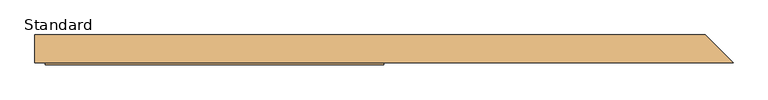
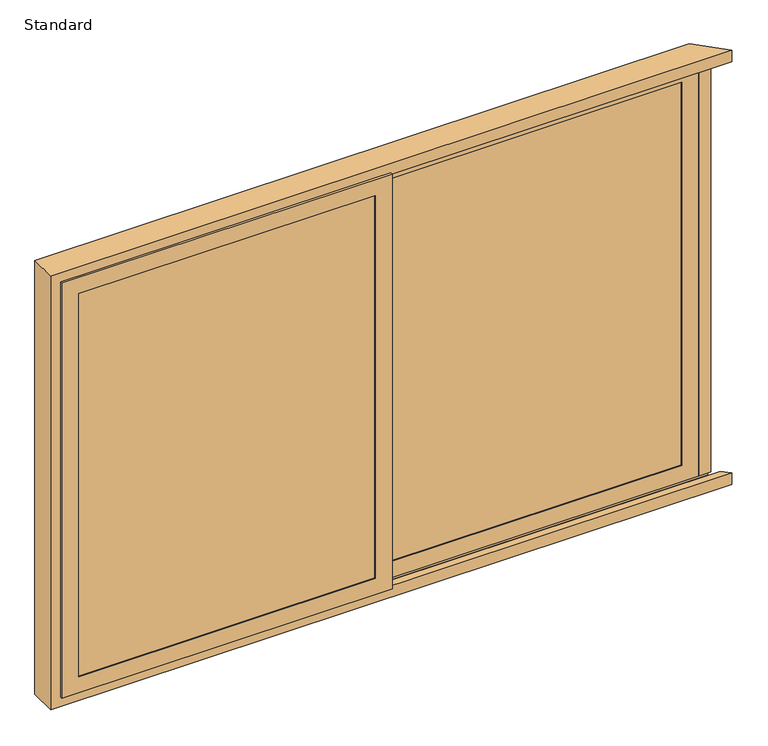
"""IFC4 building model written with IfcOpenShell, lengths in millimetres: door geometry, SMARTS_Visoglide Plus Corner Opening : Standard."""

from ifc_helpers import new_model, si_unit, frame, origin, place, context, project, spatial, polyline, outline, extrude, faceted_brep, source, transform, mapped, element, save


def standard_89412fed(model_context):
    return source(origin(), model_context, "Body", "SolidModel", [
        extrude(outline(polyline([(1347.5, 67.0), (1347.5, 63.0), (26.5, 63.0), (26.5, 67.0), (1347.5, 67.0)])), frame((0.0, 0.0, 952.5), z_axis=(0.0, 0.0, 1.0), x_axis=(1.0, 0.0, 0.0)), (0.0, 0.0, 1.0), 1795.0),
        extrude(outline(polyline([(1347.5, 47.0), (1347.5, 43.0), (26.5, 43.0), (26.5, 47.0), (1347.5, 47.0)])), frame((0.0, 0.0, 952.5), z_axis=(0.0, 0.0, 1.0), x_axis=(1.0, 0.0, 0.0)), (0.0, 0.0, 1.0), 1795.0),
        extrude(outline(polyline([(2747.5, 1347.5), (2747.5, 26.5), (952.5, 26.5), (952.5, 1347.5), (2747.5, 1347.5)]), holes=[polyline([(2737.5, 36.5), (2737.5, 1337.5), (962.5, 1337.5), (962.5, 36.5), (2737.5, 36.5)])]), frame((0.0, 47.0, 0.0), z_axis=(0.0, 1.0, 0.0), x_axis=(0.0, 0.0, 1.0)), (0.0, 0.0, 1.0), 16.0),
        extrude(outline(polyline([(947.5, 1352.5), (2752.5, 1352.5), (2752.5, 21.5), (947.5, 21.5), (947.5, 1352.5)]), holes=[polyline([(2732.5, 1332.5), (967.5, 1332.5), (967.5, 41.5), (2732.5, 41.5), (2732.5, 1332.5)])]), frame((0.0, 74.0102223, 0.0), z_axis=(0.0, 1.0, 0.0), x_axis=(0.0, 0.0, 1.0)), (0.0, 0.0, 1.0), 11.9897777),
        extrude(outline(polyline([(893.5, 1406.5), (2806.5, 1406.5), (2806.5, -32.5), (893.5, -32.5), (893.5, 1406.5)]), holes=[polyline([(2752.5, 1352.5), (947.5, 1352.5), (947.5, 21.5), (2752.5, 21.5), (2752.5, 1352.5)])]), frame((0.0, 62.0, 0.0), z_axis=(0.0, 1.0, 0.0), x_axis=(0.0, 0.0, 1.0)), (0.0, 0.0, 1.0), 24.0),
        faceted_brep([(1332.5, 39.0, 2732.5), (1332.5, 39.0, 967.5), (1332.5, 35.0, 967.5), (1332.5, 35.0, 2732.5), (1355.5, 62.0, 2755.5), (1355.5, 62.0, 944.5), (1355.5, 39.0, 944.5), (1355.5, 39.0, 2755.5), (1406.5, 35.0, 2806.5), (1406.5, 35.0, 893.5), (1406.5, 62.0, 893.5), (1406.5, 62.0, 2806.5), (41.5, 39.0, 967.5), (41.5, 35.0, 967.5), (18.5, 62.0, 944.5), (18.5, 39.0, 944.5), (-32.5, 35.0, 893.5), (-32.5, 62.0, 893.5), (41.5, 39.0, 2732.5), (41.5, 35.0, 2732.5), (18.5, 62.0, 2755.5), (18.5, 39.0, 2755.5), (-32.5, 35.0, 2806.5), (-32.5, 62.0, 2806.5)], [[[0, 1, 2, 3]], [[4, 5, 6, 7]], [[8, 9, 10, 11]], [[1, 12, 13, 2]], [[5, 14, 15, 6]], [[9, 16, 17, 10]], [[12, 18, 19, 13]], [[14, 20, 21, 15]], [[16, 22, 23, 17]], [[9, 8, 22, 16], [3, 2, 13, 19]], [[18, 0, 3, 19]], [[7, 6, 15, 21], [1, 0, 18, 12]], [[20, 4, 7, 21]], [[11, 10, 17, 23], [5, 4, 20, 14]], [[22, 8, 11, 23]]]),
        extrude(outline(polyline([(-26.5, 0.0), (-26.5, -4.0), (-1347.5, -4.0), (-1347.5, 0.0), (-26.5, 0.0)])), frame((0.0, 0.0, 952.5), z_axis=(0.0, 0.0, 1.0), x_axis=(1.0, 0.0, 0.0)), (0.0, 0.0, 1.0), 1795.0),
        extrude(outline(polyline([(-26.5, -20.0), (-26.5, -24.0), (-1347.5, -24.0), (-1347.5, -20.0), (-26.5, -20.0)])), frame((0.0, 0.0, 952.5), z_axis=(0.0, 0.0, 1.0), x_axis=(1.0, 0.0, 0.0)), (0.0, 0.0, 1.0), 1795.0),
        extrude(outline(polyline([(2747.5, -26.5), (2747.5, -1347.5), (952.5, -1347.5), (952.5, -26.5), (2747.5, -26.5)]), holes=[polyline([(2737.5, -1337.5), (2737.5, -36.5), (962.5, -36.5), (962.5, -1337.5), (2737.5, -1337.5)])]), frame((0.0, -20.0, 0.0), z_axis=(0.0, 1.0, 0.0), x_axis=(0.0, 0.0, 1.0)), (0.0, 0.0, 1.0), 16.0),
        extrude(outline(polyline([(947.5, -21.5), (2752.5, -21.5), (2752.5, -1352.5), (947.5, -1352.5), (947.5, -21.5)]), holes=[polyline([(2732.5, -41.5), (967.5, -41.5), (967.5, -1332.5), (2732.5, -1332.5), (2732.5, -41.5)])]), frame((0.0, 7.0102223, 0.0), z_axis=(0.0, 1.0, 0.0), x_axis=(0.0, 0.0, 1.0)), (0.0, 0.0, 1.0), 11.9897777),
        extrude(outline(polyline([(893.5, 32.5), (2806.5, 32.5), (2806.5, -1406.5), (893.5, -1406.5), (893.5, 32.5)]), holes=[polyline([(2752.5, -21.5), (947.5, -21.5), (947.5, -1352.5), (2752.5, -1352.5), (2752.5, -21.5)])]), frame((0.0, -5.0, 0.0), z_axis=(0.0, 1.0, 0.0), x_axis=(0.0, 0.0, 1.0)), (0.0, 0.0, 1.0), 24.0),
        faceted_brep([(-41.5, -28.0, 2732.5), (-41.5, -28.0, 967.5), (-41.5, -32.0, 967.5), (-41.5, -32.0, 2732.5), (-18.5, -5.0, 2755.5), (-18.5, -5.0, 944.5), (-18.5, -28.0, 944.5), (-18.5, -28.0, 2755.5), (32.5, -32.0, 2806.5), (32.5, -32.0, 893.5), (32.5, -5.0, 893.5), (32.5, -5.0, 2806.5), (-1332.5, -28.0, 967.5), (-1332.5, -32.0, 967.5), (-1355.5, -5.0, 944.5), (-1355.5, -28.0, 944.5), (-1406.5, -32.0, 893.5), (-1406.5, -5.0, 893.5), (-1332.5, -28.0, 2732.5), (-1332.5, -32.0, 2732.5), (-1355.5, -5.0, 2755.5), (-1355.5, -28.0, 2755.5), (-1406.5, -32.0, 2806.5), (-1406.5, -5.0, 2806.5)], [[[0, 1, 2, 3]], [[4, 5, 6, 7]], [[8, 9, 10, 11]], [[1, 12, 13, 2]], [[5, 14, 15, 6]], [[9, 16, 17, 10]], [[12, 18, 19, 13]], [[14, 20, 21, 15]], [[16, 22, 23, 17]], [[9, 8, 22, 16], [3, 2, 13, 19]], [[18, 0, 3, 19]], [[7, 6, 15, 21], [1, 0, 18, 12]], [[20, 4, 7, 21]], [[11, 10, 17, 23], [5, 4, 20, 14]], [[22, 8, 11, 23]]]),
        faceted_brep([(-1450.0, -22.7989407, 2850.0), (1517.8718161, -22.7989407, 2850.0), (1400.0728753, 95.0, 2850.0), (-1450.0, 95.0, 2850.0), (-1398.1999999, 95.0, 2798.1999999), (1400.0728753, 95.0, 2798.1999999), (1404.0728753, 91.0, 2798.1999999), (-1398.1999999, 91.0, 2798.1999999), (-1424.1999999, 91.0, 2824.1999999), (1404.0728753, 91.0, 2824.1999999), (1418.7728753, 76.3, 2824.1999999), (-1424.1999999, 76.3, 2824.1999999), (-1398.1999999, 76.3, 2798.1999999), (1418.7728753, 76.3, 2798.1999999), (1451.2886502, 43.7842251, 2798.1999999), (-1398.1999999, 43.7842251, 2798.1999999), (-1424.1999999, 43.7842251, 2824.1999999), (1451.2886502, 43.7842251, 2824.1999999), (1485.2886502, 9.7842251, 2824.1999999), (-1424.1999999, 9.7842251, 2824.1999999), (-1398.1999999, 9.7842251, 2798.1999999), (1485.2886502, 9.7842251, 2798.1999999), (1517.8718161, -22.7989407, 2798.1999999), (-1398.1999999, -22.7989407, 2798.1999999), (-1450.0, 95.0, 850.0), (-1450.0, -22.7989407, 850.0), (-1398.1999999, 91.0, 901.8000001), (-1398.1999999, 95.0, 901.8000001), (-1424.1999999, 76.3, 875.8000001), (-1424.1999999, 91.0, 875.8000001), (-1398.1999999, 43.7842251, 901.8000001), (-1398.1999999, 76.3, 901.8000001), (-1424.1999999, 9.7842251, 875.8000001), (-1424.1999999, 43.7842251, 875.8000001), (-1398.1999999, -22.7989407, 901.8000001), (-1398.1999999, 9.7842251, 901.8000001), (1400.0728753, 95.0, 850.0), (1517.8718161, -22.7989407, 850.0), (1404.0728753, 91.0, 901.8000001), (1400.0728753, 95.0, 901.8000001), (1418.7728753, 76.3, 875.8000001), (1404.0728753, 91.0, 875.8000001), (1451.2886502, 43.7842251, 901.8000001), (1418.7728753, 76.3, 901.8000001), (1485.2886502, 9.7842251, 875.8000001), (1451.2886502, 43.7842251, 875.8000001), (1517.8718161, -22.7989407, 901.8000001), (1485.2886502, 9.7842251, 901.8000001)], [[[0, 1, 2, 3]], [[4, 5, 6, 7]], [[8, 9, 10, 11]], [[12, 13, 14, 15]], [[16, 17, 18, 19]], [[20, 21, 22, 23]], [[3, 24, 25, 0]], [[7, 26, 27, 4]], [[11, 28, 29, 8]], [[15, 30, 31, 12]], [[19, 32, 33, 16]], [[23, 34, 35, 20]], [[24, 36, 37, 25]], [[26, 38, 39, 27]], [[28, 40, 41, 29]], [[30, 42, 43, 31]], [[32, 44, 45, 33]], [[34, 46, 47, 35]], [[3, 2, 5, 4, 27, 39, 36, 24]], [[7, 6, 9, 8, 29, 41, 38, 26]], [[11, 10, 13, 12, 31, 43, 40, 28]], [[15, 14, 17, 16, 33, 45, 42, 30]], [[19, 18, 21, 20, 35, 47, 44, 32]], [[25, 37, 46, 34, 23, 22, 1, 0]], [[36, 39, 38, 41, 40, 43, 42, 45, 44, 47, 46, 37]], [[1, 22, 21, 18, 17, 14, 13, 10, 9, 6, 5, 2]]]),
        extrude(outline(polyline([(1460.0728753, 35.0), (1406.5, 35.0), (1406.5, 81.7), (1413.3728753, 81.7), (1460.0728753, 35.0)])), frame((0.0, 0.0, 893.5), z_axis=(0.0, 0.0, 1.0), x_axis=(1.0, 0.0, 0.0)), (0.0, 0.0, 1.0), 1913.0),
    ])


if __name__ == "__main__":
    model = new_model("IFC4")
    model_context = context("Model", 3, world=origin())
    ifc_project = project(units=[si_unit("LENGTHUNIT", "METRE", prefix="MILLI")], contexts=[model_context])
    site = spatial("IfcSite", under=ifc_project)
    building = spatial("IfcBuilding", under=site)
    placement = place(None, origin())
    standard_shape = standard_89412fed(model_context)
    element("IfcDoor", 1, ObjectType="SMARTS_Visoglide Plus Corner Opening : Standard", at=placement, inside=building, context=model_context, shape_type="MappedRepresentation", body=[
        mapped(standard_shape, transform((0.0, 0.0, 0.0), x_axis=(1.0, 0.0, 0.0), y_axis=(0.0, 1.0, 0.0), z_axis=(0.0, 0.0, 1.0))),
    ])
    save(model, "model.ifc")
